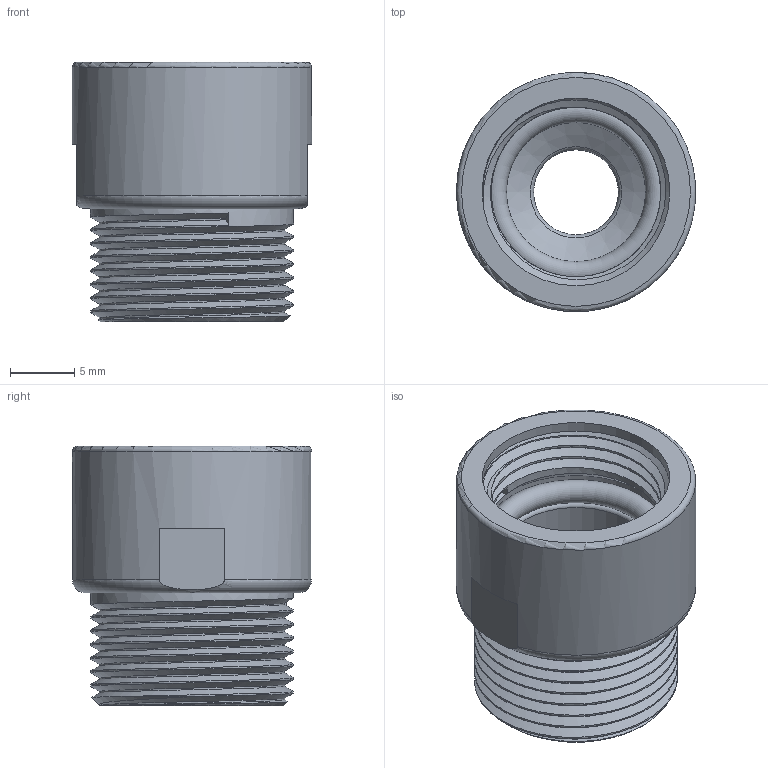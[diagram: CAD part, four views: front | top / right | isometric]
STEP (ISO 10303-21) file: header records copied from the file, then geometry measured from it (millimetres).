
FILE_DESCRIPTION (( 'STEP AP203' ), '1' );
FILE_NAME ('CE02-10SLBS-S-D(R1).STEP', '2022-04-15T08:29:31', ( '' ), ( '' ), 'SwSTEP 2.0', 'SolidWorks 2018', '' );
FILE_SCHEMA (( 'CONFIG_CONTROL_DESIGN' ));
Length unit declared in the file: millimetre
Products named in the file (1): CE02-10SLBS-S-D(R1)
Bounding box: 18.6 x 18.59 x 20.2 mm (x, y, z)
Volume: 2582.3 mm3; surface area: 2764.2 mm2
Topology: 1 solids, 1 shells, 43 faces, 108 edges, 68 vertices
Faces by surface type: cylinder 13, plane 10, torus 8, bspline 6, cone 6
Full cylindrical faces by diameter (mm): 6.6 x1, 11 x1, 14.55 x1, 14.6 x1, 15.79 x6, 18.6 x1
Entity records: 3729 total; most frequent: CARTESIAN_POINT 2961, DIRECTION 136, ORIENTED_EDGE 124, EDGE_CURVE 62, AXIS2_PLACEMENT_3D 61, EDGE_LOOP 60, FACE_OUTER_BOUND 51, VERTEX_POINT 48
